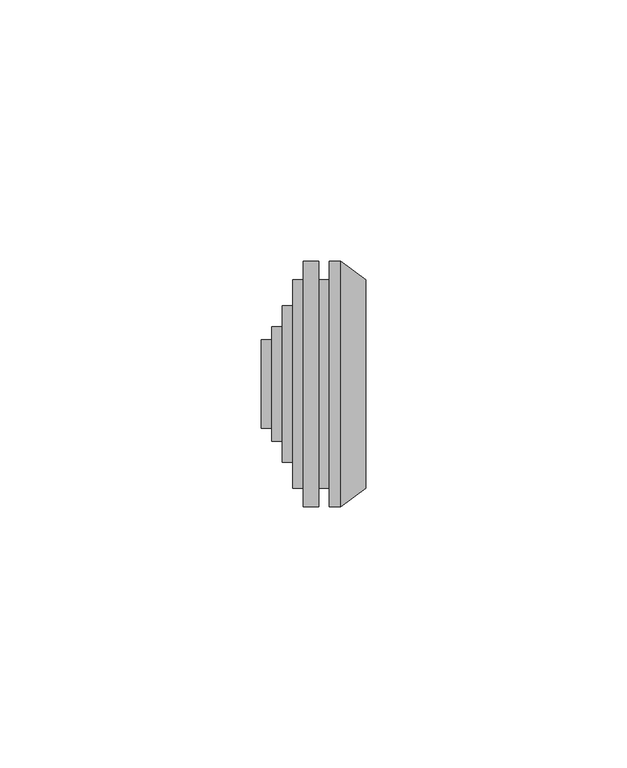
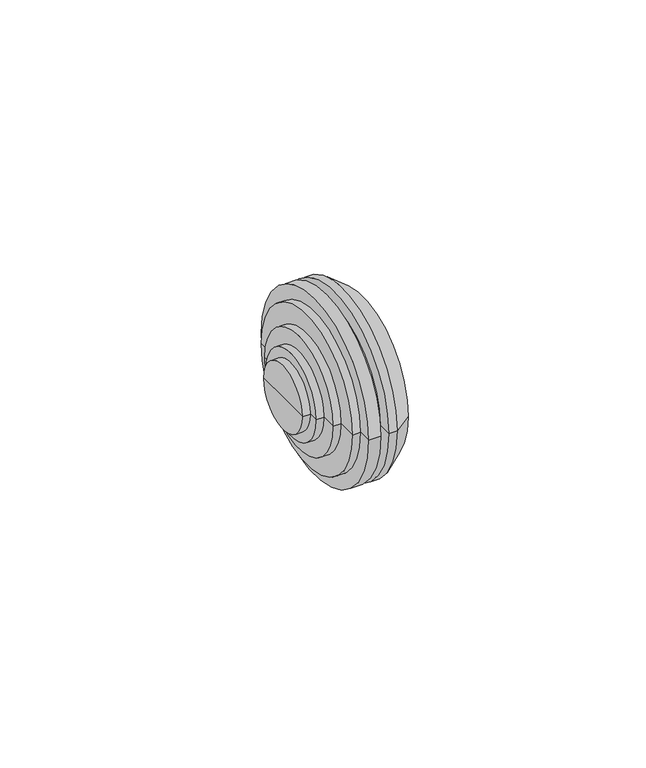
"""IFC4 building model written with IfcOpenShell, lengths in millimetres: cable carrier fitting geometry, КНС_КабельныйВводДляТруб_IP55_DKC : Коробка."""

from ifc_helpers import new_model, si_unit, frame, origin, place, context, project, spatial, polyline, circle_curve, source, transform, mapped, element, save
from ifc_brep_helpers import plane_surface, cylinder_surface, revolved_surface, advanced_brep


def cable_carrier_fitting_ed05870d(model_context):
    return source(origin(), model_context, "Body", "AdvancedBrep", [
        advanced_brep(
        [(11.0, -20.0, 0.0), (11.0, 20.0, 0.0), (11.0, 23.5, 0.0), (11.0, -23.5, 0.0), (9.0, -20.0, 0.0), (9.0, 20.0, 0.0), (9.0, -23.5, 0.0), (9.0, 23.5, 0.0), (6.0, -23.5, 0.0), (6.0, 23.5, 0.0), (6.0, -20.0, 0.0), (6.0, 20.0, 0.0), (4.0, -20.0, 0.0), (4.0, 20.0, 0.0), (4.0, -15.0, 0.0), (4.0, 15.0, 0.0), (2.0, -15.0, 0.0), (2.0, 15.0, 0.0), (2.0, -11.0, 0.0), (2.0, 11.0, 0.0), (0.0, -11.0, 0.0), (0.0, 11.0, 0.0), (0.0, -8.5, 0.0), (0.0, 8.5, 0.0), (-2.0, -8.5, 0.0), (-2.0, 8.5, 0.0), (-2.0, 0.0, 0.0), (18.0, -20.0, 0.0), (18.0, 20.0, 0.0), (18.0, 0.0, 0.0), (13.2508863, -23.5, 0.0), (13.2508863, 23.5, 0.0)],
        [
            (0, 1, circle_curve(frame((11.0, 0.0, 0.0), z_axis=(1.0, 0.0, 0.0), x_axis=(0.0, 1.0, 0.0)), 20.0)),
            (1, 2),
            (2, 3, circle_curve(frame((11.0, 0.0, 0.0), z_axis=(-1.0, 0.0, 0.0), x_axis=(0.0, 1.0, 0.0)), 23.5)),
            (3, 0),
            (1, 0, circle_curve(frame((11.0, 0.0, 0.0), z_axis=(1.0, 0.0, 0.0), x_axis=(0.0, 1.0, 0.0)), 20.0)),
            (3, 2, circle_curve(frame((11.0, 0.0, 0.0), z_axis=(-1.0, 0.0, 0.0), x_axis=(0.0, 1.0, 0.0)), 23.5)),
            (4, 5, circle_curve(frame((9.0, 0.0, 0.0), z_axis=(1.0, 0.0, 0.0), x_axis=(0.0, 1.0, 0.0)), 20.0)),
            (5, 1),
            (0, 4),
            (5, 4, circle_curve(frame((9.0, 0.0, 0.0), z_axis=(1.0, 0.0, 0.0), x_axis=(0.0, 1.0, 0.0)), 20.0)),
            (6, 7, circle_curve(frame((9.0, 0.0, 0.0), z_axis=(1.0, 0.0, 0.0), x_axis=(0.0, 1.0, 0.0)), 23.5)),
            (7, 5),
            (4, 6),
            (7, 6, circle_curve(frame((9.0, 0.0, 0.0), z_axis=(1.0, 0.0, 0.0), x_axis=(0.0, 1.0, 0.0)), 23.5)),
            (8, 9, circle_curve(frame((6.0, 0.0, 0.0), z_axis=(1.0, 0.0, 0.0), x_axis=(0.0, 1.0, 0.0)), 23.5)),
            (9, 7),
            (6, 8),
            (9, 8, circle_curve(frame((6.0, 0.0, 0.0), z_axis=(1.0, 0.0, 0.0), x_axis=(0.0, 1.0, 0.0)), 23.5)),
            (10, 11, circle_curve(frame((6.0, 0.0, 0.0), z_axis=(1.0, 0.0, 0.0), x_axis=(0.0, 1.0, 0.0)), 20.0)),
            (11, 9),
            (8, 10),
            (11, 10, circle_curve(frame((6.0, 0.0, 0.0), z_axis=(1.0, 0.0, 0.0), x_axis=(0.0, 1.0, 0.0)), 20.0)),
            (12, 13, circle_curve(frame((4.0, 0.0, 0.0), z_axis=(1.0, 0.0, 0.0), x_axis=(0.0, 1.0, 0.0)), 20.0)),
            (13, 11),
            (10, 12),
            (13, 12, circle_curve(frame((4.0, 0.0, 0.0), z_axis=(1.0, 0.0, 0.0), x_axis=(0.0, 1.0, 0.0)), 20.0)),
            (14, 15, circle_curve(frame((4.0, 0.0, 0.0), z_axis=(1.0, 0.0, 0.0), x_axis=(0.0, 1.0, 0.0)), 15.0)),
            (15, 13),
            (12, 14),
            (15, 14, circle_curve(frame((4.0, 0.0, 0.0), z_axis=(1.0, 0.0, 0.0), x_axis=(0.0, 1.0, 0.0)), 15.0)),
            (16, 17, circle_curve(frame((2.0, 0.0, 0.0), z_axis=(1.0, 0.0, 0.0), x_axis=(0.0, 1.0, 0.0)), 15.0)),
            (17, 15),
            (14, 16),
            (17, 16, circle_curve(frame((2.0, 0.0, 0.0), z_axis=(1.0, 0.0, 0.0), x_axis=(0.0, 1.0, 0.0)), 15.0)),
            (18, 19, circle_curve(frame((2.0, 0.0, 0.0), z_axis=(1.0, 0.0, 0.0), x_axis=(0.0, 1.0, 0.0)), 11.0)),
            (19, 17),
            (16, 18),
            (19, 18, circle_curve(frame((2.0, 0.0, 0.0), z_axis=(1.0, 0.0, 0.0), x_axis=(0.0, 1.0, 0.0)), 11.0)),
            (20, 21, circle_curve(frame((0.0, 0.0, 0.0), z_axis=(1.0, 0.0, 0.0), x_axis=(0.0, 1.0, 0.0)), 11.0)),
            (21, 19),
            (18, 20),
            (21, 20, circle_curve(frame((0.0, 0.0, 0.0), z_axis=(1.0, 0.0, 0.0), x_axis=(0.0, 1.0, 0.0)), 11.0)),
            (22, 23, circle_curve(frame((0.0, 0.0, 0.0), z_axis=(1.0, 0.0, 0.0), x_axis=(0.0, 1.0, 0.0)), 8.5)),
            (23, 21),
            (20, 22),
            (23, 22, circle_curve(frame((0.0, 0.0, 0.0), z_axis=(1.0, 0.0, 0.0), x_axis=(0.0, 1.0, 0.0)), 8.5)),
            (24, 25, circle_curve(frame((-2.0, 0.0, 0.0), z_axis=(1.0, 0.0, 0.0), x_axis=(0.0, 1.0, 0.0)), 8.5)),
            (25, 23),
            (22, 24),
            (25, 24, circle_curve(frame((-2.0, 0.0, 0.0), z_axis=(1.0, 0.0, 0.0), x_axis=(0.0, 1.0, 0.0)), 8.5)),
            (26, 25),
            (24, 26),
            (27, 28, circle_curve(frame((18.0, 0.0, 0.0), z_axis=(1.0, 0.0, 0.0), x_axis=(0.0, 1.0, 0.0)), 20.0)),
            (28, 29),
            (29, 27),
            (28, 27, circle_curve(frame((18.0, 0.0, 0.0), z_axis=(1.0, 0.0, 0.0), x_axis=(0.0, 1.0, 0.0)), 20.0)),
            (30, 31, circle_curve(frame((13.2508863, 0.0, 0.0), z_axis=(1.0, 0.0, 0.0), x_axis=(0.0, 1.0, 0.0)), 23.5)),
            (31, 28),
            (27, 30),
            (31, 30, circle_curve(frame((13.2508863, 0.0, 0.0), z_axis=(1.0, 0.0, 0.0), x_axis=(0.0, 1.0, 0.0)), 23.5)),
            (2, 31),
            (30, 3),
        ],
        [
            plane_surface(frame((11.0, 0.0, 0.0), z_axis=(-1.0, 0.0, 0.0), x_axis=(0.0, 1.0, 0.0))),
            cylinder_surface(frame((1524.0, 0.0, 0.0), z_axis=(-1.0, 0.0, 0.0), x_axis=(0.0, 1.0, 0.0)), 20.0),
            plane_surface(frame((9.0, 0.0, 0.0), z_axis=(1.0, 0.0, 0.0), x_axis=(0.0, 1.0, 0.0))),
            cylinder_surface(frame((1524.0, 0.0, 0.0), z_axis=(-1.0, 0.0, 0.0), x_axis=(0.0, 1.0, 0.0)), 23.5),
            plane_surface(frame((6.0, 0.0, 0.0), z_axis=(-1.0, 0.0, 0.0), x_axis=(0.0, 1.0, 0.0))),
            plane_surface(frame((4.0, 0.0, 0.0), z_axis=(-1.0, 0.0, 0.0), x_axis=(0.0, 1.0, 0.0))),
            cylinder_surface(frame((1524.0, 0.0, 0.0), z_axis=(-1.0, 0.0, 0.0), x_axis=(0.0, 1.0, 0.0)), 15.0),
            plane_surface(frame((2.0, 0.0, 0.0), z_axis=(-1.0, 0.0, 0.0), x_axis=(0.0, 1.0, 0.0))),
            cylinder_surface(frame((1524.0, 0.0, 0.0), z_axis=(-1.0, 0.0, 0.0), x_axis=(0.0, 1.0, 0.0)), 11.0),
            plane_surface(frame((0.0, 0.0, 0.0), z_axis=(-1.0, 0.0, 0.0), x_axis=(0.0, 1.0, 0.0))),
            cylinder_surface(frame((1524.0, 0.0, 0.0), z_axis=(-1.0, 0.0, 0.0), x_axis=(0.0, 1.0, 0.0)), 8.5),
            plane_surface(frame((-2.0, 0.0, 0.0), z_axis=(-1.0, 0.0, 0.0), x_axis=(0.0, 1.0, 0.0))),
            plane_surface(frame((18.0, 0.0, 0.0), z_axis=(1.0, 0.0, 0.0), x_axis=(0.0, 1.0, 0.0))),
            revolved_surface(polyline([(18.0, 20.0, 0.0), (13.2508863, 23.5, 0.0)]), (1524.0, 0.0, 0.0), (-1.0, 0.0, 0.0)),
        ],
        [
            (0, [[1, 2, 3, 4]]),
            (0, [[5, -4, 6, -2]]),
            (1, [[7, 8, -1, 9]]),
            (1, [[10, -9, -5, -8]]),
            (2, [[11, 12, -7, 13]]),
            (2, [[14, -13, -10, -12]]),
            (3, [[15, 16, -11, 17]]),
            (3, [[18, -17, -14, -16]]),
            (4, [[19, 20, -15, 21]]),
            (4, [[22, -21, -18, -20]]),
            (1, [[23, 24, -19, 25]]),
            (1, [[26, -25, -22, -24]]),
            (5, [[27, 28, -23, 29]]),
            (5, [[30, -29, -26, -28]]),
            (6, [[31, 32, -27, 33]]),
            (6, [[34, -33, -30, -32]]),
            (7, [[35, 36, -31, 37]]),
            (7, [[38, -37, -34, -36]]),
            (8, [[39, 40, -35, 41]]),
            (8, [[42, -41, -38, -40]]),
            (9, [[43, 44, -39, 45]]),
            (9, [[46, -45, -42, -44]]),
            (10, [[47, 48, -43, 49]]),
            (10, [[50, -49, -46, -48]]),
            (11, [[51, -47, 52]]),
            (11, [[-52, -50, -51]]),
            (12, [[53, 54, 55]]),
            (12, [[56, -55, -54]]),
            (13, [[57, 58, -53, 59]]),
            (13, [[60, -59, -56, -58]]),
            (3, [[-3, 61, -57, 62]]),
            (3, [[-6, -62, -60, -61]]),
        ],
    ),
    ])


if __name__ == "__main__":
    model = new_model("IFC4")
    model_context = context("Model", 3, world=origin())
    ifc_project = project(units=[si_unit("LENGTHUNIT", "METRE", prefix="MILLI")], contexts=[model_context])
    site = spatial("IfcSite", under=ifc_project)
    building = spatial("IfcBuilding", under=site)
    placement = place(None, origin())
    cable_carrier_fitting_shape = cable_carrier_fitting_ed05870d(model_context)
    element("IfcCableCarrierFitting", 1, ObjectType="КНС_КабельныйВводДляТруб_IP55_DKC : Коробка", at=placement, inside=building, context=model_context, shape_type="MappedRepresentation", body=[
        mapped(cable_carrier_fitting_shape, transform((0.0, 0.0, 0.0), x_axis=(1.0, 0.0, 0.0), y_axis=(0.0, 1.0, 0.0), z_axis=(0.0, 0.0, 1.0))),
    ])
    save(model, "model.ifc")
